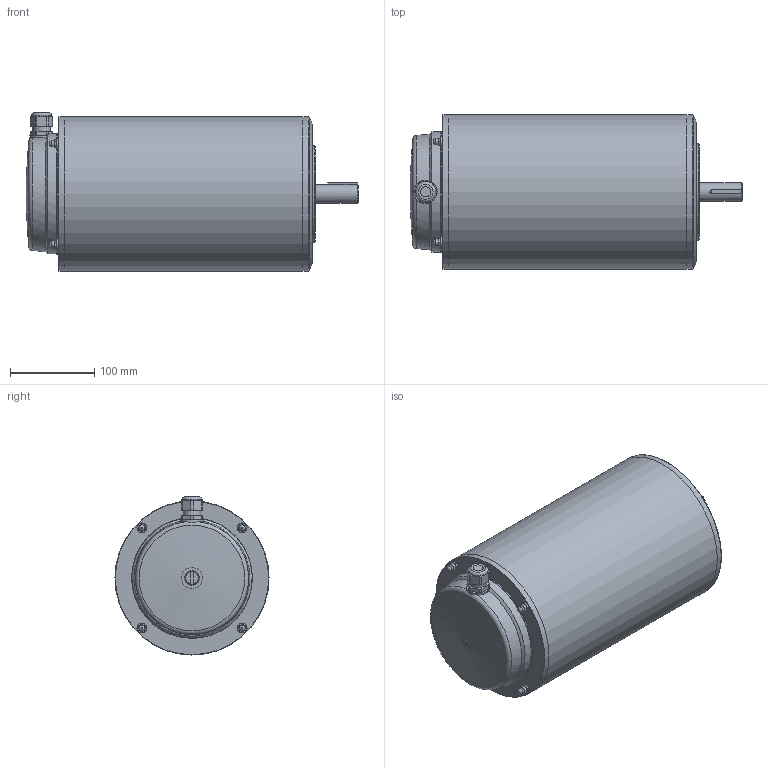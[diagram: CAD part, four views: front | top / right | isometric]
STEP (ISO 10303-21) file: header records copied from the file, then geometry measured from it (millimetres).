
FILE_DESCRIPTION(/* description */ ('Unknown'),/* implementation_level */ '2;1');
FILE_NAME(/* name */ 'APMXHE4WTUNN4KCR2-N---NNN ',/* time_stamp */ '2024-03-15T13:24:51+01:00',/* author */ ('Unknown'),/* organization */ ('Unknown'),/* preprocessor_version */ 'ST-DEVELOPER v18.104',/* originating_system */ 'Solid Edge',/* authorisation */ 'Unknown');
FILE_SCHEMA (('AUTOMOTIVE_DESIGN {1 0 10303 214 3 1 1}'));
Length unit declared in the file: millimetre
Products named in the file (1): APMXHE4WTUNN4KCR2-N---NNN 
Bounding box: 393.2 x 182.6 x 187.3 mm (x, y, z)
Volume: 8417012 mm3; surface area: 251275.2 mm2
Topology: 1 solids, 1 shells, 159 faces, 356 edges, 228 vertices
Faces by surface type: plane 83, cylinder 49, cone 18, torus 9
Full cylindrical faces by diameter (mm): 4.976 x2, 6.5 x1, 7 x4, 7.805 x8, 11.5 x4, 12 x1, 20.6 x1, 22.225 x1, 23.7 x1, 30 x1, 82 x1, 114.3 x1, 143 x1, 182.599 x1, 182.6 x2
Entity records: 5217 total; most frequent: CARTESIAN_POINT 761, DIRECTION 703, ORIENTED_EDGE 582, EDGE_CURVE 291, AXIS2_PLACEMENT_3D 275, FACE_BOUND 241, EDGE_LOOP 240, VERTEX_POINT 216
